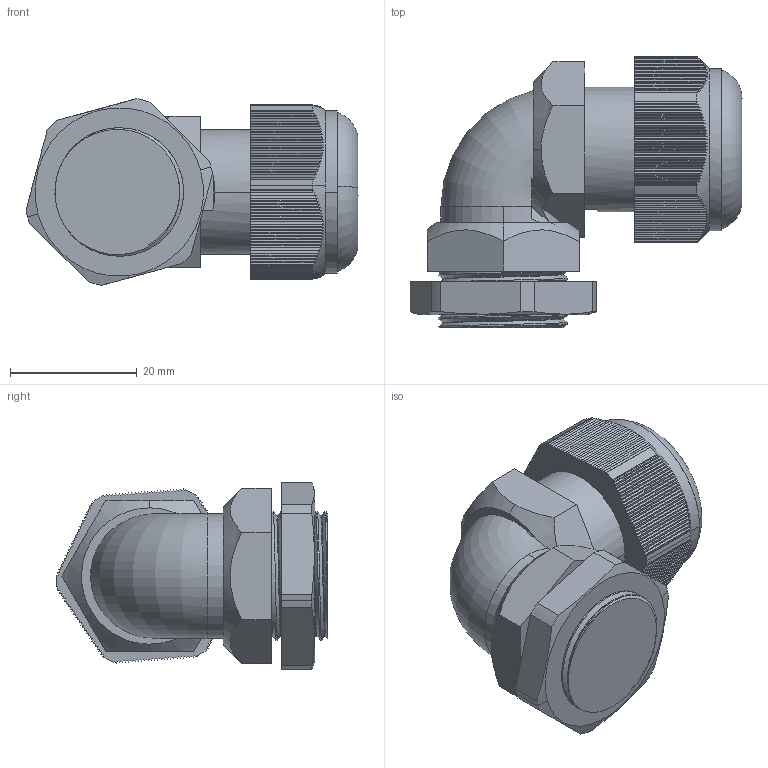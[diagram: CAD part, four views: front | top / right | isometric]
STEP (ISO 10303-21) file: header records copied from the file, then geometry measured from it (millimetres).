
FILE_DESCRIPTION (( 'STEP AP214' ), '1' );
FILE_NAME ('PCGA-13.5R.STEP', '2020-04-15T20:03:31', ( '' ), ( '' ), 'SwSTEP 2.0', 'SolidWorks 2018', '' );
FILE_SCHEMA (( 'AUTOMOTIVE_DESIGN' ));
Length unit declared in the file: millimetre
Products named in the file (2): PCGA-13.5R
Bounding box: 52.44 x 42.84 x 29.49 mm (x, y, z)
Volume: 23462 mm3; surface area: 8800.2 mm2
Topology: 1 solids, 1 shells, 439 faces, 1278 edges, 850 vertices
Faces by surface type: plane 363, cylinder 52, cone 12, bspline 7, torus 5
Entity records: 21612 total; most frequent: CARTESIAN_POINT 5933, ORIENTED_EDGE 2556, DIRECTION 1852, EDGE_CURVE 1278, VERTEX_POINT 850, VECTOR 756, LINE 756, AXIS2_PLACEMENT_3D 548
